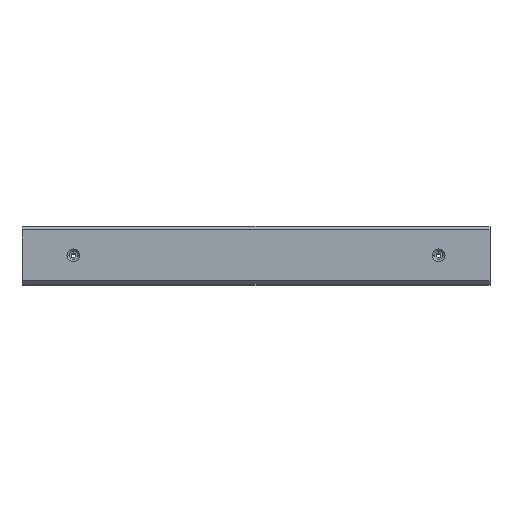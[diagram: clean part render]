
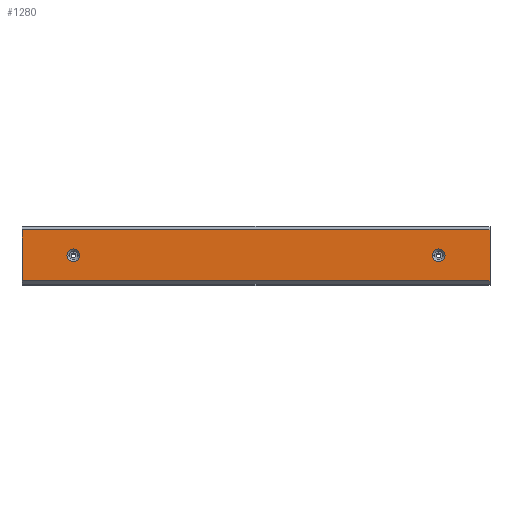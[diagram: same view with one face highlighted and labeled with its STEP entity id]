
A CAD part, top view. The second image highlights one B-rep face of the part: STEP entity #1280.
In plain terms, the highlighted planar face has unit normal (0, 0, 1).
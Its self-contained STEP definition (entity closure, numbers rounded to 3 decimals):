
#14 = VERTEX_POINT ( 'NONE', #905 ) ;
#18 = DIRECTION ( 'NONE',  ( 0., 0., 1. ) ) ;
#81 = VERTEX_POINT ( 'NONE', #1391 ) ;
#83 = EDGE_CURVE ( 'NONE', #1345, #14, #972, .T. ) ;
#141 = CARTESIAN_POINT ( 'NONE',  ( 310.25, 0., 0. ) ) ;
#153 = DIRECTION ( 'NONE',  ( 0., -1., 0. ) ) ;
#206 = EDGE_CURVE ( 'NONE', #1209, #1083, #1768, .T. ) ;
#209 = CARTESIAN_POINT ( 'NONE',  ( 0., 43.303, 0. ) ) ;
#253 = CIRCLE ( 'NONE', #1307, 10.85 ) ;
#309 = EDGE_LOOP ( 'NONE', ( #803, #940 ) ) ;
#384 = ORIENTED_EDGE ( 'NONE', *, *, #675, .F. ) ;
#386 = FACE_BOUND ( 'NONE', #1246, .T. ) ;
#405 = AXIS2_PLACEMENT_3D ( 'NONE', #828, #1382, #694 ) ;
#427 = CARTESIAN_POINT ( 'NONE',  ( 397.5, 43.303, 0. ) ) ;
#444 = VERTEX_POINT ( 'NONE', #1574 ) ;
#490 = DIRECTION ( 'NONE',  ( 0., 1., 0. ) ) ;
#513 = CARTESIAN_POINT ( 'NONE',  ( -310.25, 0., 0. ) ) ;
#552 = DIRECTION ( 'NONE',  ( 0., 0., 1. ) ) ;
#573 = CARTESIAN_POINT ( 'NONE',  ( 397.5, -43.303, 0. ) ) ;
#674 = CARTESIAN_POINT ( 'NONE',  ( 0., 43.303, 0. ) ) ;
#675 = EDGE_CURVE ( 'NONE', #741, #81, #1503, .T. ) ;
#694 = DIRECTION ( 'NONE',  ( 0., -1., 0. ) ) ;
#723 = EDGE_CURVE ( 'NONE', #1083, #1209, #253, .T. ) ;
#741 = VERTEX_POINT ( 'NONE', #928 ) ;
#789 = AXIS2_PLACEMENT_3D ( 'NONE', #1449, #18, #153 ) ;
#801 = ORIENTED_EDGE ( 'NONE', *, *, #1210, .T. ) ;
#803 = ORIENTED_EDGE ( 'NONE', *, *, #723, .F. ) ;
#828 = CARTESIAN_POINT ( 'NONE',  ( 310.25, 0., 0. ) ) ;
#830 = CIRCLE ( 'NONE', #1070, 10.85 ) ;
#861 = LINE ( 'NONE', #427, #1486 ) ;
#864 = CARTESIAN_POINT ( 'NONE',  ( 299.4, 0., 0. ) ) ;
#868 = DIRECTION ( 'NONE',  ( 0., -1., 0. ) ) ;
#905 = CARTESIAN_POINT ( 'NONE',  ( 321.1, 0., 0. ) ) ;
#928 = CARTESIAN_POINT ( 'NONE',  ( -397.5, 43.303, 0. ) ) ;
#940 = ORIENTED_EDGE ( 'NONE', *, *, #206, .F. ) ;
#954 = PLANE ( 'NONE',  #1437 ) ;
#957 = EDGE_LOOP ( 'NONE', ( #801, #1706, #384, #1514 ) ) ;
#972 = CIRCLE ( 'NONE', #405, 10.85 ) ;
#1022 = DIRECTION ( 'NONE',  ( 0., -1., 0. ) ) ;
#1038 = VECTOR ( 'NONE', #1375, 1000. ) ;
#1070 = AXIS2_PLACEMENT_3D ( 'NONE', #141, #552, #1878 ) ;
#1075 = ORIENTED_EDGE ( 'NONE', *, *, #83, .F. ) ;
#1083 = VERTEX_POINT ( 'NONE', #1506 ) ;
#1209 = VERTEX_POINT ( 'NONE', #1839 ) ;
#1210 = EDGE_CURVE ( 'NONE', #444, #1676, #1714, .T. ) ;
#1235 = DIRECTION ( 'NONE',  ( 0., -1., 0. ) ) ;
#1246 = EDGE_LOOP ( 'NONE', ( #1496, #1075 ) ) ;
#1265 = DIRECTION ( 'NONE',  ( 0., 0., 1. ) ) ;
#1280 = ADVANCED_FACE ( 'NONE', ( #1720, #1679, #386 ), #954, .T. ) ;
#1307 = AXIS2_PLACEMENT_3D ( 'NONE', #513, #1528, #1235 ) ;
#1345 = VERTEX_POINT ( 'NONE', #864 ) ;
#1375 = DIRECTION ( 'NONE',  ( 1., 0., 0. ) ) ;
#1382 = DIRECTION ( 'NONE',  ( 0., 0., 1. ) ) ;
#1391 = CARTESIAN_POINT ( 'NONE',  ( 397.5, 43.303, 0. ) ) ;
#1407 = CARTESIAN_POINT ( 'NONE',  ( 0., -43.303, 0. ) ) ;
#1437 = AXIS2_PLACEMENT_3D ( 'NONE', #674, #1265, #1022 ) ;
#1449 = CARTESIAN_POINT ( 'NONE',  ( -310.25, 0., 0. ) ) ;
#1465 = LINE ( 'NONE', #1766, #1639 ) ;
#1486 = VECTOR ( 'NONE', #868, 1000. ) ;
#1496 = ORIENTED_EDGE ( 'NONE', *, *, #1625, .F. ) ;
#1503 = LINE ( 'NONE', #209, #1038 ) ;
#1506 = CARTESIAN_POINT ( 'NONE',  ( -321.1, 0., 0. ) ) ;
#1514 = ORIENTED_EDGE ( 'NONE', *, *, #1806, .F. ) ;
#1528 = DIRECTION ( 'NONE',  ( 0., 0., 1. ) ) ;
#1574 = CARTESIAN_POINT ( 'NONE',  ( -397.5, -43.303, 0. ) ) ;
#1591 = EDGE_CURVE ( 'NONE', #81, #1676, #861, .T. ) ;
#1625 = EDGE_CURVE ( 'NONE', #14, #1345, #830, .T. ) ;
#1639 = VECTOR ( 'NONE', #490, 1000. ) ;
#1676 = VERTEX_POINT ( 'NONE', #573 ) ;
#1677 = VECTOR ( 'NONE', #1689, 1000. ) ;
#1679 = FACE_BOUND ( 'NONE', #309, .T. ) ;
#1689 = DIRECTION ( 'NONE',  ( 1., 0., 0. ) ) ;
#1706 = ORIENTED_EDGE ( 'NONE', *, *, #1591, .F. ) ;
#1714 = LINE ( 'NONE', #1407, #1677 ) ;
#1720 = FACE_OUTER_BOUND ( 'NONE', #957, .T. ) ;
#1766 = CARTESIAN_POINT ( 'NONE',  ( -397.5, 43.303, 0. ) ) ;
#1768 = CIRCLE ( 'NONE', #789, 10.85 ) ;
#1806 = EDGE_CURVE ( 'NONE', #444, #741, #1465, .T. ) ;
#1839 = CARTESIAN_POINT ( 'NONE',  ( -299.4, 0., 0. ) ) ;
#1878 = DIRECTION ( 'NONE',  ( 0., -1., 0. ) ) ;
